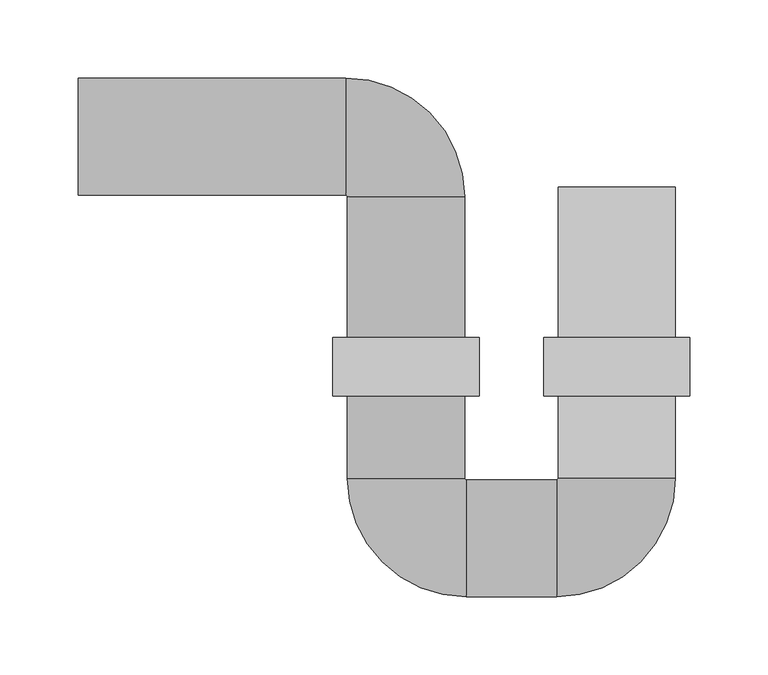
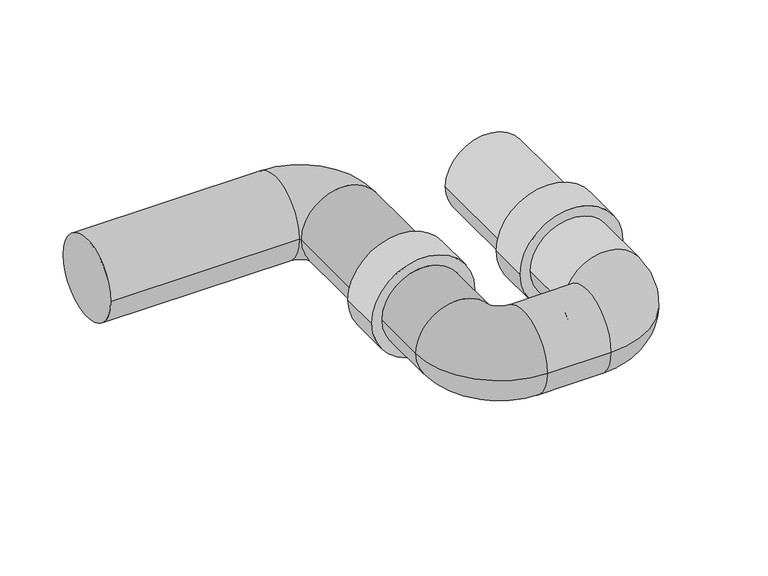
"""IFC4 building model written with IfcOpenShell, lengths in millimetres: pipe fitting geometry, NLRS_52_PIF_UN_PE buissifon_geb : DN60-100 / ø63-110."""

from ifc_helpers import new_model, si_unit, point, frame, origin, place, context, project, spatial, circle_curve, ellipse_curve, trimmed, source, transform, mapped, element, save
from ifc_brep_helpers import plane_surface, cylinder_surface, revolved_surface, advanced_brep


def pipe_fitting_d28d0940(model_context):
    return source(origin(), model_context, "Body", "AdvancedBrep", [
        advanced_brep(
        [(-88.125, -166.25, 0.0), (-181.875, -166.25, 0.0), (-172.5, -166.25, 0.0), (-97.5, -166.25, 0.0), (-88.125, -128.75, 0.0), (-181.875, -128.75, 0.0), (-97.5, -128.75, 0.0), (-172.5, -128.75, 0.0), (-345.0, -37.5, 0.0), (-345.0, 37.5, 0.0), (-173.5, -37.5, 0.0), (-173.5, 37.5, 0.0), (-172.5, -38.5, 0.0), (-97.5, -38.5, 0.0), (-172.5, -219.0, 0.0), (-97.5, -219.0, 0.0), (-96.5, -295.0, 0.0), (-96.5, -220.0, 0.0), (-38.5, -295.0, 0.0), (-38.5, -220.0, 0.0), (37.5, -219.0, 0.0), (-37.5, -219.0, 0.0), (37.5, -32.5, 0.0), (-37.5, -32.5, 0.0), (37.5, -166.25, 0.0), (-37.5, -166.25, 0.0), (-37.5, -128.75, 0.0), (37.5, -128.75, 0.0), (46.875, -166.25, 0.0), (-46.875, -166.25, 0.0), (46.875, -128.75, 0.0), (-46.875, -128.75, 0.0)],
        [
            (0, 1, circle_curve(frame((-135.0, -166.25, 0.0), z_axis=(0.0, -1.0, 0.0), x_axis=(-1.0, 0.0, 0.0)), 46.875)),
            (1, 0, circle_curve(frame((-135.0, -166.25, 0.0), z_axis=(0.0, -1.0, 0.0), x_axis=(-1.0, 0.0, 0.0)), 46.875)),
            (2, 3, circle_curve(frame((-135.0, -166.25, 0.0), z_axis=(0.0, 1.0, 0.0), x_axis=(1.0, 0.0, 0.0)), 37.5)),
            (3, 2, circle_curve(frame((-135.0, -166.25, 0.0), z_axis=(0.0, 1.0, 0.0), x_axis=(1.0, 0.0, 0.0)), 37.5)),
            (4, 5, circle_curve(frame((-135.0, -128.75, 0.0), z_axis=(0.0, 1.0, 0.0), x_axis=(-1.0, 0.0, 0.0)), 46.875)),
            (5, 4, circle_curve(frame((-135.0, -128.75, 0.0), z_axis=(0.0, 1.0, 0.0), x_axis=(-1.0, 0.0, 0.0)), 46.875)),
            (6, 7, circle_curve(frame((-135.0, -128.75, 0.0), z_axis=(0.0, -1.0, 0.0), x_axis=(1.0, 0.0, 0.0)), 37.5)),
            (7, 6, circle_curve(frame((-135.0, -128.75, 0.0), z_axis=(0.0, -1.0, 0.0), x_axis=(1.0, 0.0, 0.0)), 37.5)),
            (0, 4),
            (5, 1),
            (8, 9, circle_curve(frame((-345.0, 0.0, 0.0), z_axis=(-1.0, 0.0, 0.0), x_axis=(0.0, 1.0, 0.0)), 37.5)),
            (9, 8, circle_curve(frame((-345.0, 0.0, 0.0), z_axis=(-1.0, 0.0, 0.0), x_axis=(0.0, 1.0, 0.0)), 37.5)),
            (8, 10),
            (10, 11, circle_curve(frame((-173.5, 0.0, 0.0), z_axis=(-1.0, 0.0, 0.0), x_axis=(0.0, 1.0, 0.0)), 37.5)),
            (11, 9),
            (11, 10, circle_curve(frame((-173.5, 0.0, 0.0), z_axis=(-1.0, 0.0, 0.0), x_axis=(0.0, 1.0, 0.0)), 37.5)),
            (10, 12, circle_curve(frame((-173.5, -38.5, 0.0), z_axis=(0.0, 0.0, -1.0), x_axis=(0.0, 1.0, 0.0)), 1.0)),
            (12, 13, circle_curve(frame((-135.0, -38.5, 0.0), z_axis=(0.0, 1.0, 0.0), x_axis=(1.0, 0.0, 0.0)), 37.5)),
            (13, 11, circle_curve(frame((-173.5, -38.5, 0.0), z_axis=(0.0, 0.0, 1.0), x_axis=(0.0, 1.0, 0.0)), 76.0)),
            (13, 12, circle_curve(frame((-135.0, -38.5, 0.0), z_axis=(0.0, 1.0, 0.0), x_axis=(1.0, 0.0, 0.0)), 37.5)),
            (12, 7),
            (6, 13),
            (14, 15, circle_curve(frame((-135.0, -219.0, 0.0), z_axis=(0.0, 1.0, 0.0), x_axis=(1.0, 0.0, 0.0)), 37.5)),
            (15, 3),
            (2, 14),
            (15, 14, circle_curve(frame((-135.0, -219.0, 0.0), z_axis=(0.0, 1.0, 0.0), x_axis=(1.0, 0.0, 0.0)), 37.5)),
            (14, 16, circle_curve(frame((-96.5, -219.0, 0.0), z_axis=(0.0, 0.0, 1.0), x_axis=(-1.0, 0.0, 0.0)), 76.0)),
            (16, 17, circle_curve(frame((-96.5, -257.5, 0.0), z_axis=(-1.0, 0.0, 0.0), x_axis=(0.0, 1.0, 0.0)), 37.5)),
            (17, 15, circle_curve(frame((-96.5, -219.0, 0.0), z_axis=(0.0, 0.0, -1.0), x_axis=(-1.0, 0.0, 0.0)), 1.0)),
            (17, 16, circle_curve(frame((-96.5, -257.5, 0.0), z_axis=(-1.0, 0.0, 0.0), x_axis=(0.0, 1.0, 0.0)), 37.5)),
            (16, 18),
            (18, 19, circle_curve(frame((-38.5, -257.5, 0.0), z_axis=(-1.0, 0.0, 0.0), x_axis=(0.0, 1.0, 0.0)), 37.5)),
            (19, 17),
            (19, 18, circle_curve(frame((-38.5, -257.5, 0.0), z_axis=(-1.0, 0.0, 0.0), x_axis=(0.0, 1.0, 0.0)), 37.5)),
            (18, 20, circle_curve(frame((-38.5, -219.0, 0.0), z_axis=(0.0, 0.0, 1.0), x_axis=(0.0, -1.0, 0.0)), 76.0)),
            (20, 21, circle_curve(frame((0.0, -219.0, 0.0), z_axis=(0.0, -1.0, 0.0), x_axis=(-1.0, 0.0, 0.0)), 37.5)),
            (21, 19, circle_curve(frame((-38.5, -219.0, 0.0), z_axis=(0.0, 0.0, -1.0), x_axis=(0.0, -1.0, 0.0)), 1.0)),
            (21, 20, circle_curve(frame((0.0, -219.0, 0.0), z_axis=(0.0, -1.0, 0.0), x_axis=(-1.0, 0.0, 0.0)), 37.5)),
            (22, 23, circle_curve(frame((0.0, -32.5, 0.0), z_axis=(0.0, 1.0, 0.0), x_axis=(-1.0, 0.0, 0.0)), 37.5)),
            (23, 22, circle_curve(frame((0.0, -32.5, 0.0), z_axis=(0.0, 1.0, 0.0), x_axis=(-1.0, 0.0, 0.0)), 37.5)),
            (20, 24),
            (24, 25, circle_curve(frame((0.0, -166.25, 0.0), z_axis=(0.0, -1.0, 0.0), x_axis=(-1.0, 0.0, 0.0)), 37.5)),
            (25, 21),
            (23, 26),
            (26, 27, circle_curve(frame((0.0, -128.75, 0.0), z_axis=(0.0, 1.0, 0.0), x_axis=(-1.0, 0.0, 0.0)), 37.5)),
            (27, 22),
            (25, 24, circle_curve(frame((0.0, -166.25, 0.0), z_axis=(0.0, -1.0, 0.0), x_axis=(-1.0, 0.0, 0.0)), 37.5)),
            (27, 26, circle_curve(frame((0.0, -128.75, 0.0), z_axis=(0.0, 1.0, 0.0), x_axis=(-1.0, 0.0, 0.0)), 37.5)),
            (28, 29, circle_curve(frame((0.0, -166.25, 0.0), z_axis=(0.0, -1.0, 0.0), x_axis=(-1.0, 0.0, 0.0)), 46.875)),
            (29, 28, circle_curve(frame((0.0, -166.25, 0.0), z_axis=(0.0, -1.0, 0.0), x_axis=(-1.0, 0.0, 0.0)), 46.875)),
            (30, 31, circle_curve(frame((0.0, -128.75, 0.0), z_axis=(0.0, 1.0, 0.0), x_axis=(-1.0, 0.0, 0.0)), 46.875)),
            (31, 30, circle_curve(frame((0.0, -128.75, 0.0), z_axis=(0.0, 1.0, 0.0), x_axis=(-1.0, 0.0, 0.0)), 46.875)),
            (28, 30),
            (31, 29),
        ],
        [
            plane_surface(frame((-135.0, -166.25, 0.0), z_axis=(0.0, -1.0, 0.0), x_axis=(0.0, 0.0, 1.0))),
            plane_surface(frame((-135.0, -128.75, 0.0), z_axis=(0.0, 1.0, 0.0), x_axis=(0.0, 0.0, 1.0))),
            cylinder_surface(frame((-135.0, -166.25, 0.0), z_axis=(0.0, -1.0, 0.0), x_axis=(-1.0, 0.0, 0.0)), 46.875),
            plane_surface(frame((-345.0, 0.0, 0.0), z_axis=(-1.0, 0.0, 0.0), x_axis=(0.0, 0.0, 1.0))),
            cylinder_surface(frame((-345.0, 0.0, 0.0), z_axis=(-1.0, 0.0, 0.0), x_axis=(0.0, 1.0, 0.0)), 37.5),
            revolved_surface(trimmed(ellipse_curve(frame((-173.5, 0.0, 0.0), z_axis=(-1.0, 0.0, 0.0), x_axis=(0.0, 1.0, 0.0)), 37.5, 37.5), [point((-173.5, -37.5, 0.0))], [point((-173.5, 37.5, 0.0))], True, "CARTESIAN"), (-173.5, -38.5, 0.0), (0.0, 0.0, -1.0)),
            revolved_surface(trimmed(ellipse_curve(frame((-173.5, 0.0, 0.0), z_axis=(-1.0, 0.0, 0.0), x_axis=(0.0, 1.0, 0.0)), 37.5, 37.5), [point((-173.5, 37.5, 0.0))], [point((-173.5, -37.5, 0.0))], True, "CARTESIAN"), (-173.5, -38.5, 0.0), (0.0, 0.0, -1.0)),
            cylinder_surface(frame((-135.0, -38.5, 0.0), z_axis=(0.0, 1.0, 0.0), x_axis=(1.0, 0.0, 0.0)), 37.5),
            revolved_surface(trimmed(ellipse_curve(frame((-135.0, -219.0, 0.0), z_axis=(0.0, 1.0, 0.0), x_axis=(1.0, 0.0, 0.0)), 37.5, 37.5), [point((-172.5, -219.0, 0.0))], [point((-97.5, -219.0, 0.0))], True, "CARTESIAN"), (-96.5, -219.0, 0.0), (0.0, 0.0, 1.0)),
            revolved_surface(trimmed(ellipse_curve(frame((-135.0, -219.0, 0.0), z_axis=(0.0, 1.0, 0.0), x_axis=(1.0, 0.0, 0.0)), 37.5, 37.5), [point((-97.5, -219.0, 0.0))], [point((-172.5, -219.0, 0.0))], True, "CARTESIAN"), (-96.5, -219.0, 0.0), (0.0, 0.0, 1.0)),
            cylinder_surface(frame((-96.5, -257.5, 0.0), z_axis=(-1.0, 0.0, 0.0), x_axis=(0.0, 1.0, 0.0)), 37.5),
            revolved_surface(trimmed(ellipse_curve(frame((-38.5, -257.5, 0.0), z_axis=(-1.0, 0.0, 0.0), x_axis=(0.0, 1.0, 0.0)), 37.5, 37.5), [point((-38.5, -295.0, 0.0))], [point((-38.5, -220.0, 0.0))], True, "CARTESIAN"), (-38.5, -219.0, 0.0), (0.0, 0.0, 1.0)),
            revolved_surface(trimmed(ellipse_curve(frame((-38.5, -257.5, 0.0), z_axis=(-1.0, 0.0, 0.0), x_axis=(0.0, 1.0, 0.0)), 37.5, 37.5), [point((-38.5, -220.0, 0.0))], [point((-38.5, -295.0, 0.0))], True, "CARTESIAN"), (-38.5, -219.0, 0.0), (0.0, 0.0, 1.0)),
            plane_surface(frame((0.0, -32.5, 0.0), z_axis=(0.0, 1.0, 0.0), x_axis=(0.0, 0.0, 1.0))),
            cylinder_surface(frame((0.0, -219.0, 0.0), z_axis=(0.0, -1.0, 0.0), x_axis=(-1.0, 0.0, 0.0)), 37.5),
            plane_surface(frame((0.0, -166.25, 0.0), z_axis=(0.0, -1.0, 0.0), x_axis=(0.0, 0.0, 1.0))),
            plane_surface(frame((0.0, -128.75, 0.0), z_axis=(0.0, 1.0, 0.0), x_axis=(0.0, 0.0, 1.0))),
            cylinder_surface(frame((0.0, -166.25, 0.0), z_axis=(0.0, -1.0, 0.0), x_axis=(-1.0, 0.0, 0.0)), 46.875),
        ],
        [
            (0, [[1, 2], [3, 4]]),
            (1, [[5, 6], [7, 8]]),
            (2, [[-1, 9, -6, 10]]),
            (2, [[-2, -10, -5, -9]]),
            (3, [[11, 12]]),
            (4, [[-11, 13, 14, 15]]),
            (4, [[-12, -15, 16, -13]]),
            (5, [[-14, 17, 18, 19]]),
            (6, [[-16, -19, 20, -17]]),
            (7, [[-18, 21, -7, 22]]),
            (7, [[23, 24, -3, 25]]),
            (7, [[-20, -22, -8, -21]]),
            (7, [[26, -25, -4, -24]]),
            (8, [[-23, 27, 28, 29]]),
            (9, [[-26, -29, 30, -27]]),
            (10, [[-28, 31, 32, 33]]),
            (10, [[-30, -33, 34, -31]]),
            (11, [[-32, 35, 36, 37]]),
            (12, [[-34, -37, 38, -35]]),
            (13, [[39, 40]]),
            (14, [[-36, 41, 42, 43]]),
            (14, [[-40, 44, 45, 46]]),
            (14, [[-38, -43, 47, -41]]),
            (14, [[-39, -46, 48, -44]]),
            (15, [[49, 50], [-42, -47]]),
            (16, [[51, 52], [-45, -48]]),
            (17, [[-49, 53, -52, 54]]),
            (17, [[-50, -54, -51, -53]]),
        ],
    ),
    ])


if __name__ == "__main__":
    model = new_model("IFC4")
    model_context = context("Model", 3, world=origin())
    ifc_project = project(units=[si_unit("LENGTHUNIT", "METRE", prefix="MILLI")], contexts=[model_context])
    site = spatial("IfcSite", under=ifc_project)
    building = spatial("IfcBuilding", under=site)
    placement = place(None, origin())
    pipe_fitting_shape = pipe_fitting_d28d0940(model_context)
    element("IfcPipeFitting", 1, ObjectType="NLRS_52_PIF_UN_PE buissifon_geb : DN60-100 / ø63-110", at=placement, inside=building, context=model_context, shape_type="MappedRepresentation", body=[
        mapped(pipe_fitting_shape, transform((0.0, 0.0, 0.0), x_axis=(1.0, 0.0, 0.0), y_axis=(0.0, 1.0, 0.0), z_axis=(0.0, 0.0, 1.0))),
    ])
    save(model, "model.ifc")
